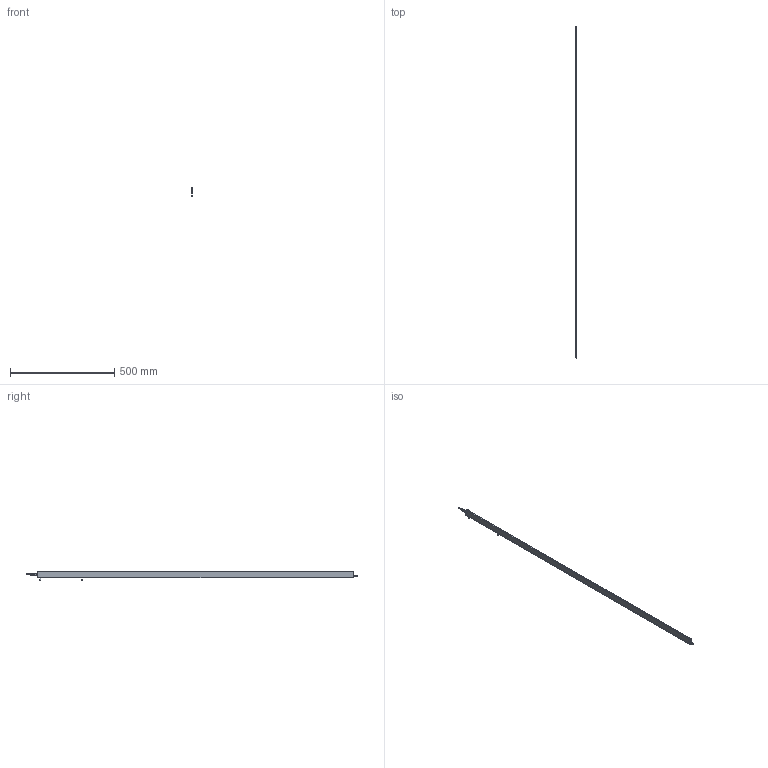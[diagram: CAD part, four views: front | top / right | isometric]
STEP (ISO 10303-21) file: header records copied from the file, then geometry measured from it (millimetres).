
FILE_DESCRIPTION (( 'STEP AP214' ), '1' );
FILE_NAME ('ILG-B-K2-1520mm.STEP', '2017-07-10T12:53:48', ( '' ), ( '' ), 'SwSTEP 2.0', 'SolidWorks 2016', '' );
FILE_SCHEMA (( 'AUTOMOTIVE_DESIGN' ));
Length unit declared in the file: millimetre
Products named in the file (1): ILG-B-K2-1520mm
Bounding box: 9 x 1593.5 x 46.21 mm (x, y, z)
Surface area: 254320.6 mm2 (no closed solid volume)
Topology: 0 solids, 15 shells, 702 faces, 1822 edges, 1157 vertices
Faces by surface type: cylinder 287, plane 266, cone 99, bspline 32, torus 18
Entity records: 31388 total; most frequent: CARTESIAN_POINT 6631, ORIENTED_EDGE 3597, DIRECTION 3488, EDGE_CURVE 1806, AXIS2_PLACEMENT_3D 1342, VERTEX_POINT 1157, VECTOR 804, LINE 804
